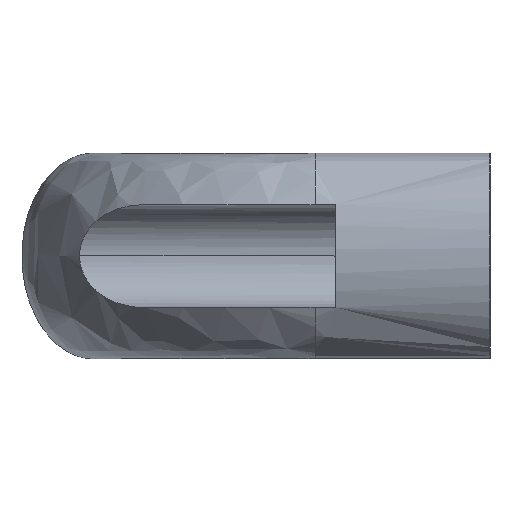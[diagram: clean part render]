
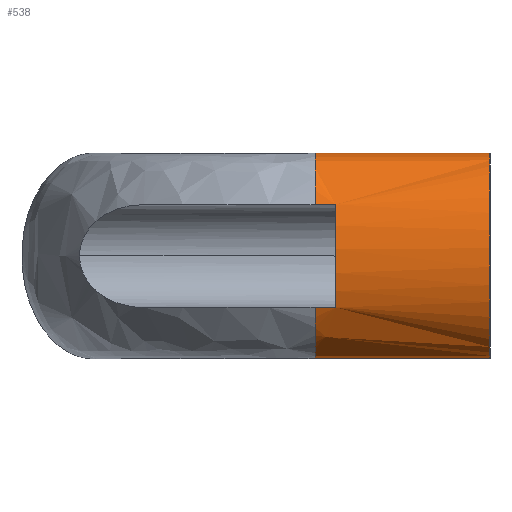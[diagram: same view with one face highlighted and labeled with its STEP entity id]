
A CAD part, left-side view. The second image highlights one B-rep face of the part: STEP entity #538.
In plain terms, the highlighted free-form (B-spline) face has degree [3, 1] with [4, 2] control points.
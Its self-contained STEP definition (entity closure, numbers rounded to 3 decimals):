
#5 = CARTESIAN_POINT ( 'NONE',  ( -62.062, 17., -10. ) ) ;
#16 = ORIENTED_EDGE ( 'NONE', *, *, #608, .F. ) ;
#19 = CARTESIAN_POINT ( 'NONE',  ( -59.5, 0., -10. ) ) ;
#35 = CARTESIAN_POINT ( 'NONE',  ( -66.843, 15., 1.83 ) ) ;
#38 = VERTEX_POINT ( 'NONE', #761 ) ;
#51 = VERTEX_POINT ( 'NONE', #547 ) ;
#58 =( BOUNDED_CURVE ( )  B_SPLINE_CURVE ( 3, ( #625, #35, #799, #289 ),
 .UNSPECIFIED., .F., .T. ) 
 B_SPLINE_CURVE_WITH_KNOTS ( ( 4, 4 ),
 ( 1.047, 2.094 ),
 .UNSPECIFIED. ) 
 CURVE ( )  GEOMETRIC_REPRESENTATION_ITEM ( )  RATIONAL_B_SPLINE_CURVE ( ( 1., 0.911, 0.911, 1. ) ) 
 REPRESENTATION_ITEM ( '' )  );
#111 = CARTESIAN_POINT ( 'NONE',  ( -73.5, 0., 10. ) ) ;
#113 = LINE ( 'NONE', #623, #563 ) ;
#118 = ORIENTED_EDGE ( 'NONE', *, *, #897, .F. ) ;
#129 = EDGE_CURVE ( 'NONE', #1006, #1021, #259, .T. ) ;
#172 = CARTESIAN_POINT ( 'NONE',  ( -65.562, 17., -5. ) ) ;
#189 = EDGE_CURVE ( 'NONE', #51, #339, #882, .T. ) ;
#209 = DIRECTION ( 'NONE',  ( 0., -1., 0. ) ) ;
#231 = VECTOR ( 'NONE', #691, 1000. ) ;
#234 = CARTESIAN_POINT ( 'NONE',  ( -73.5, 0., -10. ) ) ;
#254 = CARTESIAN_POINT ( 'NONE',  ( -64.281, 17., -8.17 ) ) ;
#259 = LINE ( 'NONE', #172, #231 ) ;
#271 = DIRECTION ( 'NONE',  ( 0., -1., 0. ) ) ;
#284 = VERTEX_POINT ( 'NONE', #1001 ) ;
#287 = VERTEX_POINT ( 'NONE', #490 ) ;
#289 = CARTESIAN_POINT ( 'NONE',  ( -65.562, 15., -5. ) ) ;
#306 = VERTEX_POINT ( 'NONE', #526 ) ;
#315 = ORIENTED_EDGE ( 'NONE', *, *, #672, .T. ) ;
#338 = CARTESIAN_POINT ( 'NONE',  ( -59.5, 17., -10. ) ) ;
#339 = VERTEX_POINT ( 'NONE', #518 ) ;
#350 =( BOUNDED_CURVE ( )  B_SPLINE_CURVE ( 3, ( #19, #955, #111, #886 ),
 .UNSPECIFIED., .F., .T. ) 
 B_SPLINE_CURVE_WITH_KNOTS ( ( 4, 4 ),
 ( 3.142, 6.283 ),
 .UNSPECIFIED. ) 
 CURVE ( )  GEOMETRIC_REPRESENTATION_ITEM ( )  RATIONAL_B_SPLINE_CURVE ( ( 1., 0.333, 0.333, 1. ) ) 
 REPRESENTATION_ITEM ( '' )  );
#359 = CARTESIAN_POINT ( 'NONE',  ( -59.5, 17., 10. ) ) ;
#361 = VECTOR ( 'NONE', #271, 1000. ) ;
#410 = VECTOR ( 'NONE', #209, 1000. ) ;
#456 =( BOUNDED_SURFACE ( )  B_SPLINE_SURFACE ( 3, 1, ( 
 ( #577, #1079 ),
 ( #830, #234 ),
 ( #1073, #478 ),
 ( #985, #741 ) ),
 .UNSPECIFIED., .F., .F., .F. ) 
 B_SPLINE_SURFACE_WITH_KNOTS ( ( 4, 4 ),
 ( 2, 2 ),
 ( 0., 1. ),
 ( 0., 1. ),
 .UNSPECIFIED. ) 
 GEOMETRIC_REPRESENTATION_ITEM ( )  RATIONAL_B_SPLINE_SURFACE ( (
 ( 1., 1.),
 ( 0.333, 0.333),
 ( 0.333, 0.333),
 ( 1., 1.) ) ) 
 REPRESENTATION_ITEM ( '' )  SURFACE ( )  );
#461 = EDGE_LOOP ( 'NONE', ( #118, #315, #795, #16, #946, #531, #982, #831 ) ) ;
#468 = FACE_OUTER_BOUND ( 'NONE', #461, .T. ) ;
#478 = CARTESIAN_POINT ( 'NONE',  ( -73.5, 0., 10. ) ) ;
#490 = CARTESIAN_POINT ( 'NONE',  ( -59.5, 0., 10. ) ) ;
#518 = CARTESIAN_POINT ( 'NONE',  ( -59.5, 17., 10. ) ) ;
#526 = CARTESIAN_POINT ( 'NONE',  ( -59.5, 0., -10. ) ) ;
#531 = ORIENTED_EDGE ( 'NONE', *, *, #731, .T. ) ;
#538 = ADVANCED_FACE ( 'NONE', ( #468 ), #456, .F. ) ;
#543 = CARTESIAN_POINT ( 'NONE',  ( -65.562, 15., -5. ) ) ;
#547 = CARTESIAN_POINT ( 'NONE',  ( -65.562, 17., 5. ) ) ;
#549 = CARTESIAN_POINT ( 'NONE',  ( -62.062, 17., 10. ) ) ;
#551 =( BOUNDED_CURVE ( )  B_SPLINE_CURVE ( 3, ( #338, #5, #254, #853 ),
 .UNSPECIFIED., .F., .T. ) 
 B_SPLINE_CURVE_WITH_KNOTS ( ( 4, 4 ),
 ( 3.142, 4.189 ),
 .UNSPECIFIED. ) 
 CURVE ( )  GEOMETRIC_REPRESENTATION_ITEM ( )  RATIONAL_B_SPLINE_CURVE ( ( 1., 0.911, 0.911, 1. ) ) 
 REPRESENTATION_ITEM ( '' )  );
#563 = VECTOR ( 'NONE', #709, 1000. ) ;
#577 = CARTESIAN_POINT ( 'NONE',  ( -59.5, 17., -10. ) ) ;
#608 = EDGE_CURVE ( 'NONE', #339, #287, #609, .T. ) ;
#609 = LINE ( 'NONE', #359, #361 ) ;
#623 = CARTESIAN_POINT ( 'NONE',  ( -59.5, 17., -10. ) ) ;
#625 = CARTESIAN_POINT ( 'NONE',  ( -65.562, 15., 5. ) ) ;
#672 = EDGE_CURVE ( 'NONE', #284, #306, #113, .T. ) ;
#691 = DIRECTION ( 'NONE',  ( 0., 1., 0. ) ) ;
#709 = DIRECTION ( 'NONE',  ( 0., -1., 0. ) ) ;
#727 = EDGE_CURVE ( 'NONE', #38, #1006, #58, .T. ) ;
#731 = EDGE_CURVE ( 'NONE', #51, #38, #748, .T. ) ;
#741 = CARTESIAN_POINT ( 'NONE',  ( -59.5, 0., 10. ) ) ;
#748 = LINE ( 'NONE', #878, #410 ) ;
#761 = CARTESIAN_POINT ( 'NONE',  ( -65.562, 15., 5. ) ) ;
#794 = CARTESIAN_POINT ( 'NONE',  ( -65.562, 17., 5. ) ) ;
#795 = ORIENTED_EDGE ( 'NONE', *, *, #1010, .T. ) ;
#799 = CARTESIAN_POINT ( 'NONE',  ( -66.843, 15., -1.83 ) ) ;
#803 = CARTESIAN_POINT ( 'NONE',  ( -59.5, 17., 10. ) ) ;
#830 = CARTESIAN_POINT ( 'NONE',  ( -73.5, 17., -10. ) ) ;
#831 = ORIENTED_EDGE ( 'NONE', *, *, #129, .T. ) ;
#853 = CARTESIAN_POINT ( 'NONE',  ( -65.562, 17., -5. ) ) ;
#878 = CARTESIAN_POINT ( 'NONE',  ( -65.562, 17., 5. ) ) ;
#882 =( BOUNDED_CURVE ( )  B_SPLINE_CURVE ( 3, ( #794, #1058, #549, #803 ),
 .UNSPECIFIED., .F., .T. ) 
 B_SPLINE_CURVE_WITH_KNOTS ( ( 4, 4 ),
 ( 5.236, 6.283 ),
 .UNSPECIFIED. ) 
 CURVE ( )  GEOMETRIC_REPRESENTATION_ITEM ( )  RATIONAL_B_SPLINE_CURVE ( ( 1., 0.911, 0.911, 1. ) ) 
 REPRESENTATION_ITEM ( '' )  );
#886 = CARTESIAN_POINT ( 'NONE',  ( -59.5, 0., 10. ) ) ;
#897 = EDGE_CURVE ( 'NONE', #284, #1021, #551, .T. ) ;
#946 = ORIENTED_EDGE ( 'NONE', *, *, #189, .F. ) ;
#954 = CARTESIAN_POINT ( 'NONE',  ( -65.562, 17., -5. ) ) ;
#955 = CARTESIAN_POINT ( 'NONE',  ( -73.5, 0., -10. ) ) ;
#982 = ORIENTED_EDGE ( 'NONE', *, *, #727, .T. ) ;
#985 = CARTESIAN_POINT ( 'NONE',  ( -59.5, 17., 10. ) ) ;
#1001 = CARTESIAN_POINT ( 'NONE',  ( -59.5, 17., -10. ) ) ;
#1006 = VERTEX_POINT ( 'NONE', #543 ) ;
#1010 = EDGE_CURVE ( 'NONE', #306, #287, #350, .T. ) ;
#1021 = VERTEX_POINT ( 'NONE', #954 ) ;
#1058 = CARTESIAN_POINT ( 'NONE',  ( -64.281, 17., 8.17 ) ) ;
#1073 = CARTESIAN_POINT ( 'NONE',  ( -73.5, 17., 10. ) ) ;
#1079 = CARTESIAN_POINT ( 'NONE',  ( -59.5, 0., -10. ) ) ;
